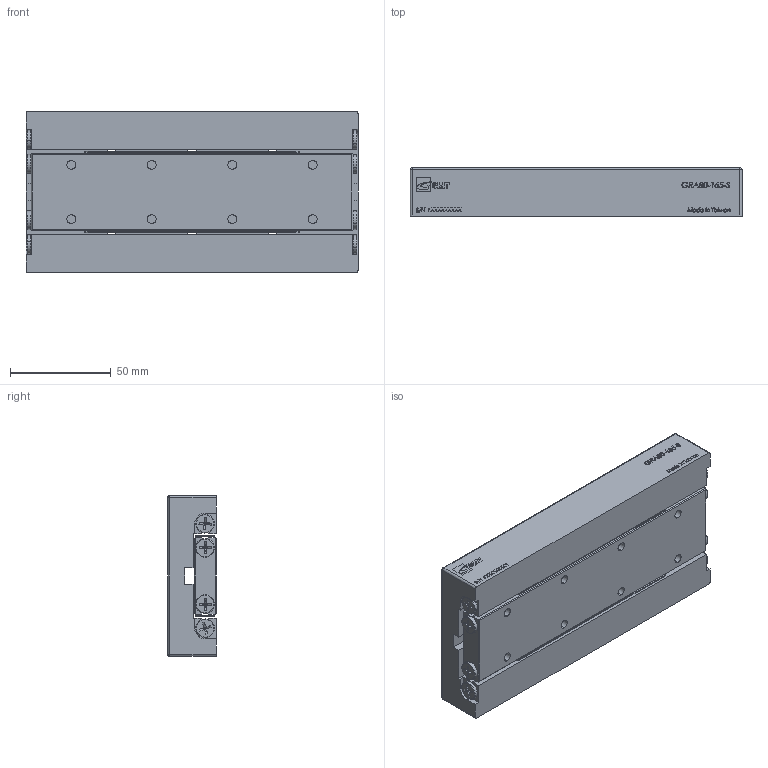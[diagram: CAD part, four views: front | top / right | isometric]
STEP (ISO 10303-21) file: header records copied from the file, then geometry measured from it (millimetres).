
FILE_DESCRIPTION (( 'STEP AP203' ), '1' );
FILE_NAME ('GRA80-165-S.STEP', '2013-12-14T07:04:53', ( '' ), ( '' ), 'SwSTEP 2.0', 'SolidWorks 2013', '' );
FILE_SCHEMA (( 'CONFIG_CONTROL_DESIGN' ));
Length unit declared in the file: millimetre
Products named in the file (1): GRA80-165-S
Bounding box: 165 x 24 x 80 mm (x, y, z)
Surface area: 65513.3 mm2 (no closed solid volume)
Topology: 0 solids, 54 shells, 343 faces, 2244 edges, 1904 vertices
Faces by surface type: plane 242, cylinder 56, torus 32, cone 8, sphere 4, bspline 1
Entity records: 25471 total; most frequent: CARTESIAN_POINT 9499, ORIENTED_EDGE 2878, DIRECTION 2841, EDGE_CURVE 2236, VERTEX_POINT 1904, VECTOR 1473, LINE 1473, AXIS2_PLACEMENT_3D 684
